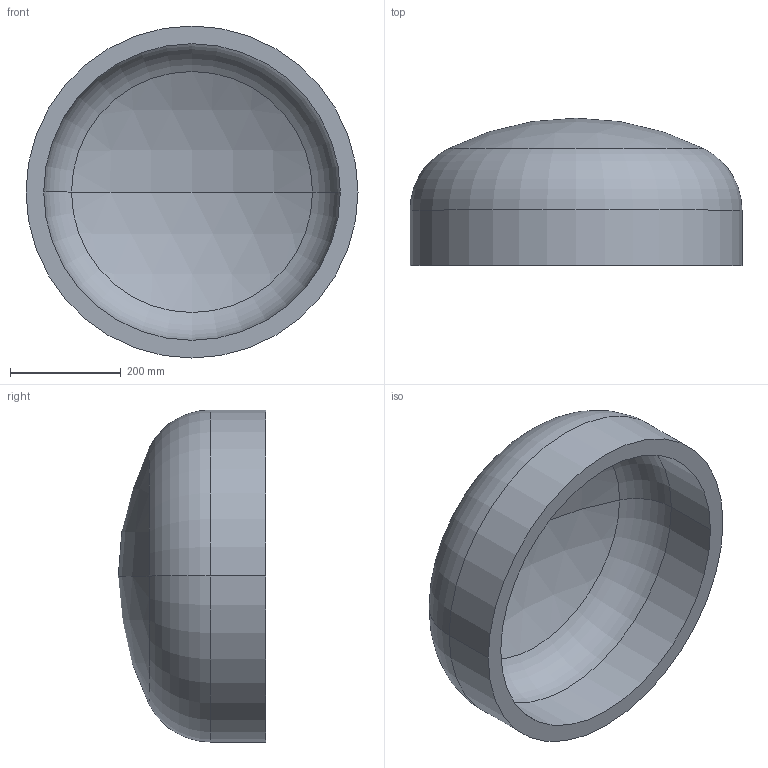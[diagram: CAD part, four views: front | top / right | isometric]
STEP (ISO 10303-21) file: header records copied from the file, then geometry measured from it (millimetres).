
FILE_DESCRIPTION (( 'STEP AP203' ), '1' );
FILE_NAME ('DIN 28013 Korbbogenform_-_Boden DIN 28013 - 600 x 100 - I - s=32.step', '2016-07-01T07:59:36', ( '' ), ( '' ), 'SwSTEP 2.0', 'SolidWorks 2013', '' );
FILE_SCHEMA (( 'CONFIG_CONTROL_DESIGN' ));
Length unit declared in the file: millimetre
Products named in the file (1): DIN 28013 Korbbogenform_-_Boden DIN 28013 - 600 x 100 - I - s=32
Bounding box: 600 x 266.21 x 600 mm (x, y, z)
Volume: 17402929.9 mm3; surface area: 1146929.2 mm2
Topology: 1 solids, 1 shells, 13 faces, 24 edges, 14 vertices
Faces by surface type: torus 4, cylinder 4, sphere 4, plane 1
Entity records: 407 total; most frequent: DIRECTION 72, CARTESIAN_POINT 52, ORIENTED_EDGE 48, AXIS2_PLACEMENT_3D 34, EDGE_CURVE 24, CIRCLE 20, VERTEX_POINT 14, EDGE_LOOP 14
